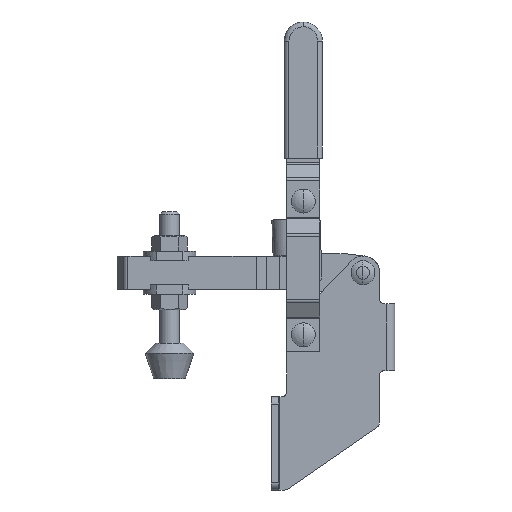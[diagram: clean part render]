
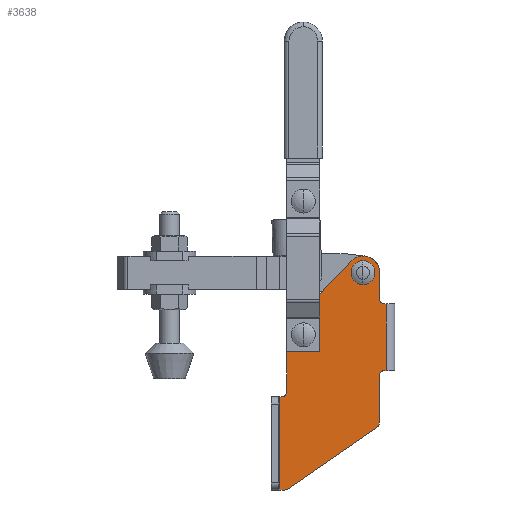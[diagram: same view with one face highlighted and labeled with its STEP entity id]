
A CAD part, front view. The second image highlights one B-rep face of the part: STEP entity #3638.
In plain terms, the highlighted planar face has unit normal (0, -1, 0).
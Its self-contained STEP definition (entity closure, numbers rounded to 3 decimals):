
#1858=CARTESIAN_POINT('Cartesian Point',(90.013,-6.4,-6.)) ;
#1861=CARTESIAN_POINT('Line Origine',(90.363,-6.4,-6.)) ;
#1865=CARTESIAN_POINT('Cartesian Point',(90.713,-6.4,-6.)) ;
#1939=CARTESIAN_POINT('Cartesian Point',(90.013,-6.4,-34.)) ;
#2009=CARTESIAN_POINT('Cartesian Point',(90.713,-6.4,-34.)) ;
#2012=CARTESIAN_POINT('Line Origine',(90.363,-6.4,-34.)) ;
#2912=CARTESIAN_POINT('Cartesian Point',(50.967,-6.4,-14.148)) ;
#2928=CARTESIAN_POINT('Cartesian Point',(49.013,-6.4,-19.)) ;
#2931=CARTESIAN_POINT('Axis2P3D Location',(56.013,-6.4,-19.)) ;
#2952=CARTESIAN_POINT('Cartesian Point',(75.967,-6.4,11.852)) ;
#2962=CARTESIAN_POINT('Line Origine',(63.467,-6.4,-1.148)) ;
#2983=CARTESIAN_POINT('Cartesian Point',(88.013,-6.4,7.)) ;
#2993=CARTESIAN_POINT('Axis2P3D Location',(81.013,-6.4,7.)) ;
#3014=CARTESIAN_POINT('Cartesian Point',(88.013,-6.4,-4.)) ;
#3024=CARTESIAN_POINT('Line Origine',(88.013,-6.4,1.5)) ;
#3046=CARTESIAN_POINT('Axis2P3D Location',(90.013,-6.4,-4.)) ;
#3067=CARTESIAN_POINT('Cartesian Point',(88.013,-6.4,-36.)) ;
#3077=CARTESIAN_POINT('Axis2P3D Location',(90.013,-6.4,-36.)) ;
#3098=CARTESIAN_POINT('Cartesian Point',(88.013,-6.4,-55.428)) ;
#3108=CARTESIAN_POINT('Line Origine',(88.013,-6.4,-45.714)) ;
#3129=CARTESIAN_POINT('Cartesian Point',(86.72,-6.4,-57.895)) ;
#3139=CARTESIAN_POINT('Axis2P3D Location',(85.013,-6.4,-55.428)) ;
#3160=CARTESIAN_POINT('Cartesian Point',(49.783,-6.4,-83.467)) ;
#3170=CARTESIAN_POINT('Line Origine',(68.252,-6.4,-70.681)) ;
#3191=CARTESIAN_POINT('Cartesian Point',(48.076,-6.4,-84.)) ;
#3201=CARTESIAN_POINT('Axis2P3D Location',(48.076,-6.4,-81.)) ;
#3246=CARTESIAN_POINT('Line Origine',(47.144,-6.4,-84.)) ;
#3250=CARTESIAN_POINT('Cartesian Point',(46.213,-6.4,-84.)) ;
#3373=CARTESIAN_POINT('Cartesian Point',(46.213,-6.4,-45.)) ;
#3376=CARTESIAN_POINT('Line Origine',(46.613,-6.4,-45.)) ;
#3380=CARTESIAN_POINT('Cartesian Point',(47.013,-6.4,-45.)) ;
#3422=CARTESIAN_POINT('Cartesian Point',(49.013,-6.4,-43.)) ;
#3432=CARTESIAN_POINT('Axis2P3D Location',(47.013,-6.4,-43.)) ;
#3454=CARTESIAN_POINT('Line Origine',(49.013,-6.4,-31.)) ;
#3560=CARTESIAN_POINT('Line Origine',(46.213,-6.4,-9.)) ;
#3572=CARTESIAN_POINT('Axis2P3D Location',(90.713,-6.4,66.)) ;
#3577=CARTESIAN_POINT('Line Origine',(90.713,-6.4,-20.)) ;
#3602=CARTESIAN_POINT('Axis2P3D Location',(56.013,-6.4,-19.)) ;
#3606=CARTESIAN_POINT('Cartesian Point',(56.013,-6.4,-15.8)) ;
#3608=CARTESIAN_POINT('Cartesian Point',(56.013,-6.4,-22.2)) ;
#3611=CARTESIAN_POINT('Axis2P3D Location',(56.013,-6.4,-19.)) ;
#3620=CARTESIAN_POINT('Axis2P3D Location',(81.013,-6.4,7.)) ;
#3624=CARTESIAN_POINT('Cartesian Point',(81.013,-6.4,10.2)) ;
#3626=CARTESIAN_POINT('Cartesian Point',(81.013,-6.4,3.8)) ;
#3629=CARTESIAN_POINT('Axis2P3D Location',(81.013,-6.4,7.)) ;
#1862=DIRECTION('Vector Direction',(1.,0.,0.)) ;
#2013=DIRECTION('Vector Direction',(1.,0.,0.)) ;
#2932=DIRECTION('Axis2P3D Direction',(0.,-1.,0.)) ;
#2963=DIRECTION('Vector Direction',(0.693,0.,0.721)) ;
#2994=DIRECTION('Axis2P3D Direction',(0.,-1.,0.)) ;
#3025=DIRECTION('Vector Direction',(0.,0.,1.)) ;
#3047=DIRECTION('Axis2P3D Direction',(0.,-1.,0.)) ;
#3078=DIRECTION('Axis2P3D Direction',(0.,-1.,0.)) ;
#3109=DIRECTION('Vector Direction',(0.,0.,1.)) ;
#3140=DIRECTION('Axis2P3D Direction',(0.,-1.,0.)) ;
#3171=DIRECTION('Vector Direction',(0.822,0.,0.569)) ;
#3202=DIRECTION('Axis2P3D Direction',(0.,-1.,0.)) ;
#3247=DIRECTION('Vector Direction',(1.,0.,0.)) ;
#3377=DIRECTION('Vector Direction',(1.,0.,0.)) ;
#3433=DIRECTION('Axis2P3D Direction',(0.,-1.,0.)) ;
#3455=DIRECTION('Vector Direction',(0.,0.,1.)) ;
#3561=DIRECTION('Vector Direction',(0.,0.,1.)) ;
#3573=DIRECTION('Axis2P3D Direction',(0.,-1.,0.)) ;
#3574=DIRECTION('Axis2P3D XDirection',(0.,0.,1.)) ;
#3578=DIRECTION('Vector Direction',(0.,0.,-1.)) ;
#3603=DIRECTION('Axis2P3D Direction',(0.,-1.,0.)) ;
#3612=DIRECTION('Axis2P3D Direction',(0.,-1.,0.)) ;
#3621=DIRECTION('Axis2P3D Direction',(0.,-1.,0.)) ;
#3630=DIRECTION('Axis2P3D Direction',(0.,-1.,0.)) ;
#2933=AXIS2_PLACEMENT_3D('Circle Axis2P3D',#2931,#2932,$) ;
#2995=AXIS2_PLACEMENT_3D('Circle Axis2P3D',#2993,#2994,$) ;
#3048=AXIS2_PLACEMENT_3D('Circle Axis2P3D',#3046,#3047,$) ;
#3079=AXIS2_PLACEMENT_3D('Circle Axis2P3D',#3077,#3078,$) ;
#3141=AXIS2_PLACEMENT_3D('Circle Axis2P3D',#3139,#3140,$) ;
#3203=AXIS2_PLACEMENT_3D('Circle Axis2P3D',#3201,#3202,$) ;
#3434=AXIS2_PLACEMENT_3D('Circle Axis2P3D',#3432,#3433,$) ;
#3575=AXIS2_PLACEMENT_3D('Plane Axis2P3D',#3572,#3573,#3574) ;
#3604=AXIS2_PLACEMENT_3D('Circle Axis2P3D',#3602,#3603,$) ;
#3613=AXIS2_PLACEMENT_3D('Circle Axis2P3D',#3611,#3612,$) ;
#3622=AXIS2_PLACEMENT_3D('Circle Axis2P3D',#3620,#3621,$) ;
#3631=AXIS2_PLACEMENT_3D('Circle Axis2P3D',#3629,#3630,$) ;
#3583=ORIENTED_EDGE('Oriented Edge',*,*,#3564,.T.) ;
#3584=ORIENTED_EDGE('Oriented Edge',*,*,#3252,.T.) ;
#3585=ORIENTED_EDGE('Oriented Edge',*,*,#3205,.T.) ;
#3586=ORIENTED_EDGE('Oriented Edge',*,*,#3174,.T.) ;
#3587=ORIENTED_EDGE('Oriented Edge',*,*,#3143,.T.) ;
#3588=ORIENTED_EDGE('Oriented Edge',*,*,#3112,.T.) ;
#3589=ORIENTED_EDGE('Oriented Edge',*,*,#3081,.F.) ;
#3590=ORIENTED_EDGE('Oriented Edge',*,*,#2016,.T.) ;
#3591=ORIENTED_EDGE('Oriented Edge',*,*,#3581,.F.) ;
#3592=ORIENTED_EDGE('Oriented Edge',*,*,#1867,.F.) ;
#3593=ORIENTED_EDGE('Oriented Edge',*,*,#3050,.F.) ;
#3594=ORIENTED_EDGE('Oriented Edge',*,*,#3028,.T.) ;
#3595=ORIENTED_EDGE('Oriented Edge',*,*,#2997,.T.) ;
#3596=ORIENTED_EDGE('Oriented Edge',*,*,#2966,.F.) ;
#3597=ORIENTED_EDGE('Oriented Edge',*,*,#2935,.T.) ;
#3598=ORIENTED_EDGE('Oriented Edge',*,*,#3458,.F.) ;
#3599=ORIENTED_EDGE('Oriented Edge',*,*,#3436,.F.) ;
#3600=ORIENTED_EDGE('Oriented Edge',*,*,#3382,.F.) ;
#3617=ORIENTED_EDGE('Oriented Edge',*,*,#3610,.F.) ;
#3618=ORIENTED_EDGE('Oriented Edge',*,*,#3615,.F.) ;
#3635=ORIENTED_EDGE('Oriented Edge',*,*,#3628,.F.) ;
#3636=ORIENTED_EDGE('Oriented Edge',*,*,#3633,.F.) ;
#3619=FACE_BOUND('Face Bound',#3616,.T.) ;
#3637=FACE_BOUND('Face Bound',#3634,.T.) ;
#1863=VECTOR('Line Direction',#1862,1.) ;
#2014=VECTOR('Line Direction',#2013,1.) ;
#2964=VECTOR('Line Direction',#2963,1.) ;
#3026=VECTOR('Line Direction',#3025,1.) ;
#3110=VECTOR('Line Direction',#3109,1.) ;
#3172=VECTOR('Line Direction',#3171,1.) ;
#3248=VECTOR('Line Direction',#3247,1.) ;
#3378=VECTOR('Line Direction',#3377,1.) ;
#3456=VECTOR('Line Direction',#3455,1.) ;
#3562=VECTOR('Line Direction',#3561,1.) ;
#3579=VECTOR('Line Direction',#3578,1.) ;
#3638=ADVANCED_FACE('',(#3601,#3619,#3637),#3576,.T.) ;
#2934=CIRCLE('generated circle',#2933,7.) ;
#2996=CIRCLE('generated circle',#2995,7.) ;
#3049=CIRCLE('generated circle',#3048,2.) ;
#3080=CIRCLE('generated circle',#3079,2.) ;
#3142=CIRCLE('generated circle',#3141,3.) ;
#3204=CIRCLE('generated circle',#3203,3.) ;
#3435=CIRCLE('generated circle',#3434,2.) ;
#3605=CIRCLE('generated circle',#3604,3.2) ;
#3614=CIRCLE('generated circle',#3613,3.2) ;
#3623=CIRCLE('generated circle',#3622,3.2) ;
#3632=CIRCLE('generated circle',#3631,3.2) ;
#1867=EDGE_CURVE('',#1859,#1866,#1864,.T.) ;
#2016=EDGE_CURVE('',#1940,#2010,#2015,.T.) ;
#2935=EDGE_CURVE('',#2913,#2929,#2934,.T.) ;
#2966=EDGE_CURVE('',#2913,#2953,#2965,.T.) ;
#2997=EDGE_CURVE('',#2984,#2953,#2996,.T.) ;
#3028=EDGE_CURVE('',#3015,#2984,#3027,.T.) ;
#3050=EDGE_CURVE('',#3015,#1859,#3049,.T.) ;
#3081=EDGE_CURVE('',#1940,#3068,#3080,.T.) ;
#3112=EDGE_CURVE('',#3099,#3068,#3111,.T.) ;
#3143=EDGE_CURVE('',#3130,#3099,#3142,.T.) ;
#3174=EDGE_CURVE('',#3161,#3130,#3173,.T.) ;
#3205=EDGE_CURVE('',#3192,#3161,#3204,.T.) ;
#3252=EDGE_CURVE('',#3251,#3192,#3249,.T.) ;
#3382=EDGE_CURVE('',#3374,#3381,#3379,.T.) ;
#3436=EDGE_CURVE('',#3381,#3423,#3435,.T.) ;
#3458=EDGE_CURVE('',#3423,#2929,#3457,.T.) ;
#3564=EDGE_CURVE('',#3374,#3251,#3563,.F.) ;
#3581=EDGE_CURVE('',#1866,#2010,#3580,.T.) ;
#3610=EDGE_CURVE('',#3607,#3609,#3605,.T.) ;
#3615=EDGE_CURVE('',#3609,#3607,#3614,.T.) ;
#3628=EDGE_CURVE('',#3625,#3627,#3623,.T.) ;
#3633=EDGE_CURVE('',#3627,#3625,#3632,.T.) ;
#3582=EDGE_LOOP('Oriented Loop',(#3583,#3584,#3585,#3586,#3587,#3588,#3589,#3590,#3591,#3592,#3593,#3594,#3595,#3596,#3597,#3598,#3599,#3600)) ;
#3616=EDGE_LOOP('Oriented Loop',(#3617,#3618)) ;
#3634=EDGE_LOOP('Oriented Loop',(#3635,#3636)) ;
#3601=FACE_OUTER_BOUND('Face Bound',#3582,.T.) ;
#1864=LINE('Line',#1861,#1863) ;
#2015=LINE('Line',#2012,#2014) ;
#2965=LINE('Line',#2962,#2964) ;
#3027=LINE('Line',#3024,#3026) ;
#3111=LINE('Line',#3108,#3110) ;
#3173=LINE('Line',#3170,#3172) ;
#3249=LINE('Line',#3246,#3248) ;
#3379=LINE('Line',#3376,#3378) ;
#3457=LINE('Line',#3454,#3456) ;
#3563=LINE('Line',#3560,#3562) ;
#3580=LINE('Line',#3577,#3579) ;
#3576=PLANE('Plane',#3575) ;
#1859=VERTEX_POINT('Vertex Point',#1858) ;
#1866=VERTEX_POINT('Vertex Point',#1865) ;
#1940=VERTEX_POINT('Vertex Point',#1939) ;
#2010=VERTEX_POINT('Vertex Point',#2009) ;
#2913=VERTEX_POINT('Vertex Point',#2912) ;
#2929=VERTEX_POINT('Vertex Point',#2928) ;
#2953=VERTEX_POINT('Vertex Point',#2952) ;
#2984=VERTEX_POINT('Vertex Point',#2983) ;
#3015=VERTEX_POINT('Vertex Point',#3014) ;
#3068=VERTEX_POINT('Vertex Point',#3067) ;
#3099=VERTEX_POINT('Vertex Point',#3098) ;
#3130=VERTEX_POINT('Vertex Point',#3129) ;
#3161=VERTEX_POINT('Vertex Point',#3160) ;
#3192=VERTEX_POINT('Vertex Point',#3191) ;
#3251=VERTEX_POINT('Vertex Point',#3250) ;
#3374=VERTEX_POINT('Vertex Point',#3373) ;
#3381=VERTEX_POINT('Vertex Point',#3380) ;
#3423=VERTEX_POINT('Vertex Point',#3422) ;
#3607=VERTEX_POINT('Vertex Point',#3606) ;
#3609=VERTEX_POINT('Vertex Point',#3608) ;
#3625=VERTEX_POINT('Vertex Point',#3624) ;
#3627=VERTEX_POINT('Vertex Point',#3626) ;
